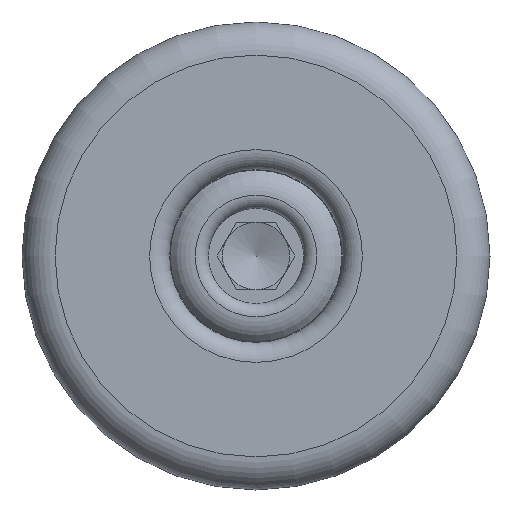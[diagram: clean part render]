
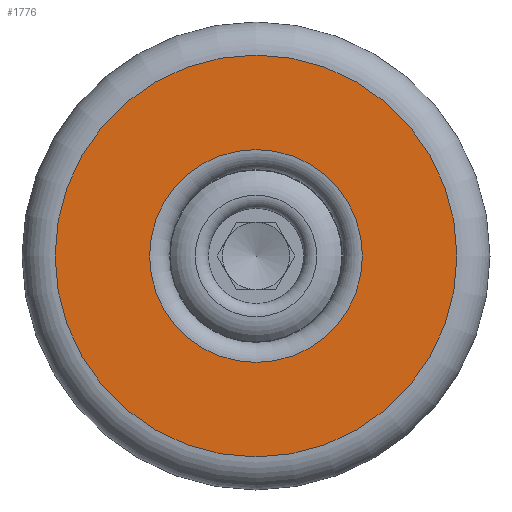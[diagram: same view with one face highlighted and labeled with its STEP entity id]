
A CAD part, front view. The second image highlights one B-rep face of the part: STEP entity #1776.
In plain terms, the highlighted planar face has unit normal (0, -1, 0).
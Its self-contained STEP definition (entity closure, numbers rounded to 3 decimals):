
#122=FACE_BOUND('',#337,.T.);
#136=PLANE('',#1997);
#233=FACE_OUTER_BOUND('',#336,.T.);
#336=EDGE_LOOP('',(#1256,#1257));
#337=EDGE_LOOP('',(#1258,#1259));
#639=CIRCLE('',#1994,8.05);
#640=CIRCLE('',#1995,8.05);
#642=CIRCLE('',#1998,15.2);
#643=CIRCLE('',#1999,15.2);
#751=VERTEX_POINT('',#2759);
#752=VERTEX_POINT('',#2761);
#753=VERTEX_POINT('',#2766);
#754=VERTEX_POINT('',#2767);
#952=EDGE_CURVE('',#751,#752,#639,.T.);
#953=EDGE_CURVE('',#752,#751,#640,.T.);
#955=EDGE_CURVE('',#753,#754,#642,.T.);
#956=EDGE_CURVE('',#754,#753,#643,.T.);
#1256=ORIENTED_EDGE('',*,*,#955,.F.);
#1257=ORIENTED_EDGE('',*,*,#956,.F.);
#1258=ORIENTED_EDGE('',*,*,#953,.F.);
#1259=ORIENTED_EDGE('',*,*,#952,.F.);
#1776=ADVANCED_FACE('',(#233,#122),#136,.T.);
#1994=AXIS2_PLACEMENT_3D('',#2762,#2253,#2254);
#1995=AXIS2_PLACEMENT_3D('',#2763,#2255,#2256);
#1997=AXIS2_PLACEMENT_3D('',#2765,#2259,#2260);
#1998=AXIS2_PLACEMENT_3D('',#2768,#2261,#2262);
#1999=AXIS2_PLACEMENT_3D('',#2769,#2263,#2264);
#2253=DIRECTION('center_axis',(0.,-1.,0.));
#2254=DIRECTION('ref_axis',(-1.,0.,0.));
#2255=DIRECTION('center_axis',(0.,-1.,0.));
#2256=DIRECTION('ref_axis',(-1.,0.,0.));
#2259=DIRECTION('center_axis',(0.,-1.,0.));
#2260=DIRECTION('ref_axis',(0.,0.,-1.));
#2261=DIRECTION('center_axis',(0.,1.,0.));
#2262=DIRECTION('ref_axis',(-1.,0.,0.));
#2263=DIRECTION('center_axis',(0.,1.,0.));
#2264=DIRECTION('ref_axis',(-1.,0.,0.));
#2759=CARTESIAN_POINT('',(0.,0.,8.05));
#2761=CARTESIAN_POINT('',(8.05,0.,0.));
#2762=CARTESIAN_POINT('Origin',(0.,0.,0.));
#2763=CARTESIAN_POINT('Origin',(0.,0.,0.));
#2765=CARTESIAN_POINT('Origin',(12.125,0.,0.));
#2766=CARTESIAN_POINT('',(15.2,0.,0.));
#2767=CARTESIAN_POINT('',(0.,0.,15.2));
#2768=CARTESIAN_POINT('Origin',(0.,0.,0.));
#2769=CARTESIAN_POINT('Origin',(0.,0.,0.));
